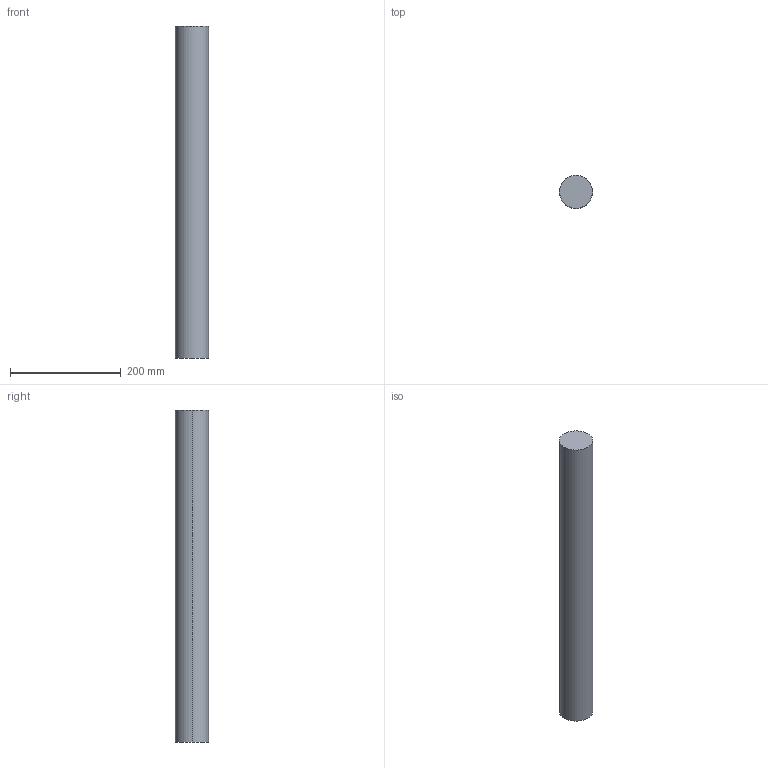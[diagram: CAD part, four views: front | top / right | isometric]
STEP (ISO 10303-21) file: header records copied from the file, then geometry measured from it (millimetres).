
FILE_DESCRIPTION (( 'STEP AP203' ), '1' );
FILE_NAME ('Mounting column Ø60x600 041J004336.STEP', '2009-10-15T06:15:36', ( 'HP' ), ( '' ), 'SwSTEP 2.0', 'SolidWorks 2008', '' );
FILE_SCHEMA (( 'CONFIG_CONTROL_DESIGN' ));
Length unit declared in the file: millimetre
Products named in the file (1): Mounting column Ø60x600 041J004336
Bounding box: 60 x 60 x 600 mm (x, y, z)
Volume: 1696460 mm3; surface area: 118752.2 mm2
Topology: 1 solids, 1 shells, 4 faces, 6 edges, 4 vertices
Faces by surface type: cylinder 2, plane 2
Entity records: 171 total; most frequent: DIRECTION 20, CARTESIAN_POINT 15, ORIENTED_EDGE 12, AXIS2_PLACEMENT_3D 9, PERSON_AND_ORGANIZATION 8, EDGE_CURVE 6, COORDINATED_UNIVERSAL_TIME_OFFSET 5, DATE_AND_TIME 5
